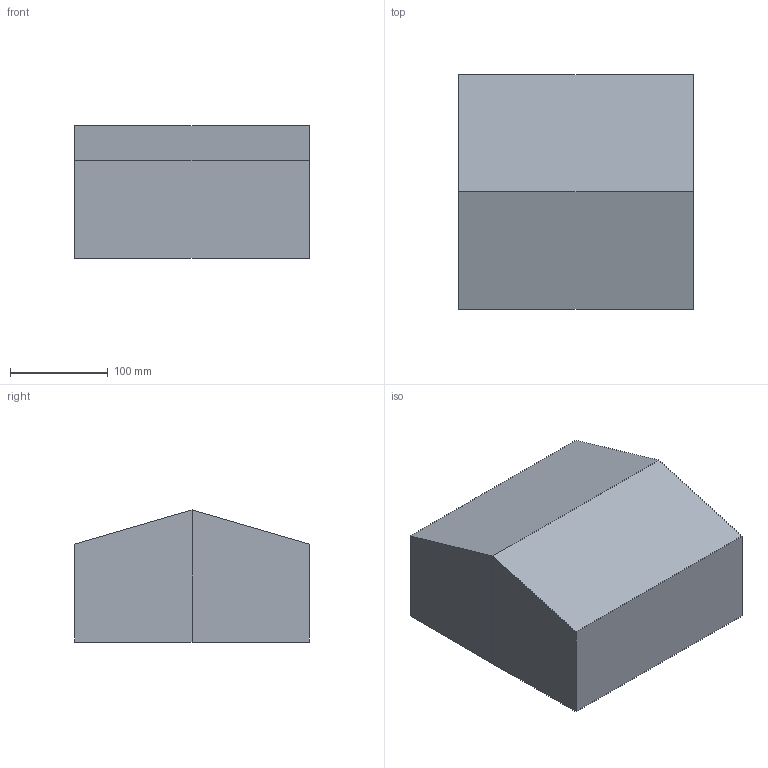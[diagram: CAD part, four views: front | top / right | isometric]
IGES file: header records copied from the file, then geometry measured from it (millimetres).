
Start section: Data from Parasolid IGES Translator,  Copyright (c) 2006 UGS Corp. All R ights Reserved.
Global section: file name: goland_wing.igs; native system:  By UGS Corp.; preprocessor: XPlus GENERIC/IGES 3.0; author: Noname; organization: Noname; date: 20091117.121548; units: millimetre
Bounding box: 240 x 240 x 135 mm (x, y, z)
Surface area: 222240.3 mm2 (no closed solid volume)
Topology: 0 solids, 0 shells, 11 faces, 46 edges, 46 vertices
Faces by surface type: bspline 11
